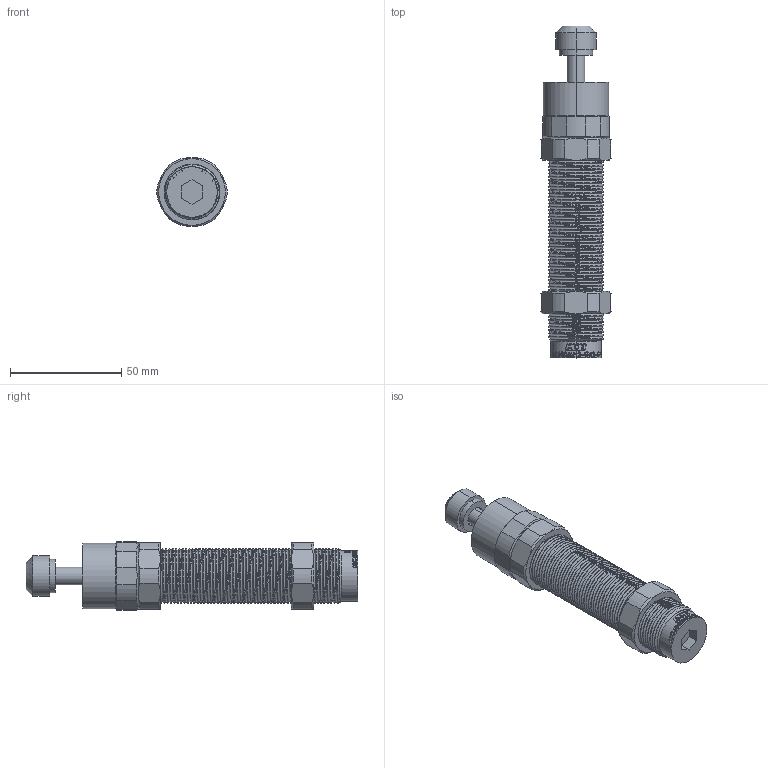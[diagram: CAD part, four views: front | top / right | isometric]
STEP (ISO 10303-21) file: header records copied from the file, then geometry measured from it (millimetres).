
FILE_DESCRIPTION (( 'STEP AP203' ), '1' );
FILE_NAME ('MC600M-PG-原始檔-組合件-W104.07.23.STEP', '2019-08-26T09:39:28', ( 'DanyaoCAD' ), ( '' ), 'SwSTEP 2.0', 'SolidWorks 2016', '' );
FILE_SCHEMA (( 'CONFIG_CONTROL_DESIGN' ));
Products named in the file (7): 090600-000 MC600用PU鐵頭 W103.08.22; 09078-000-PU膠頭-97-01-25-S; AH25M-原始檔-W103.08.04; MC600M-PG-原始檔-組合件-W104.07.23; MC600M-本體-W103.08.18; MC600M-軸心-97-01-22-S; A  250-9560M-M25螺帽-97-01-22-S
Assembly tree (7 placements, depth 2):
  MC600M-PG-原始檔-組合件-W104.07.23
    MC600M-本體-W103.08.18
    MC600M-軸心-97-01-22-S
    A  250-9560M-M25螺帽-97-01-22-S  x2
    090600-000 MC600用PU鐵頭 W103.08.22
    09078-000-PU膠頭-97-01-25-S
    AH25M-原始檔-W103.08.04
Bounding box: 31.53 x 149.3 x 31 mm (x, y, z)
Volume: 62284.4 mm3; surface area: 33738.5 mm2
Topology: 7 solids, 7 shells, 2334 faces, 6713 edges, 4460 vertices
Faces by surface type: bspline 1463, plane 462, cylinder 362, cone 41, torus 6
Entity records: 546736 total; most frequent: CARTESIAN_POINT 499557, ORIENTED_EDGE 13120, EDGE_CURVE 6560, VERTEX_POINT 4362, DIRECTION 4263, B_SPLINE_CURVE_WITH_KNOTS 3539, EDGE_LOOP 2350, ADVANCED_FACE 2277
